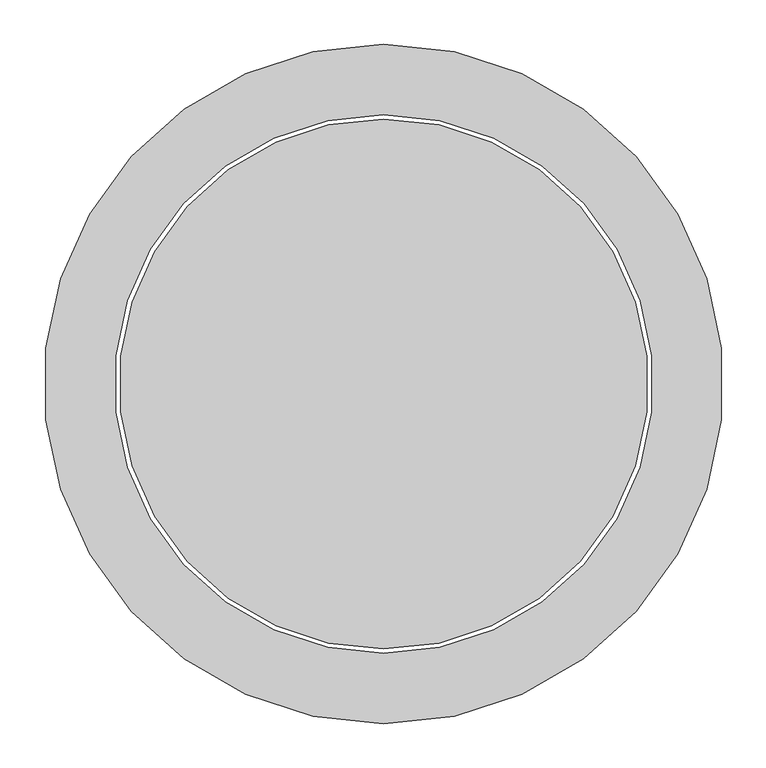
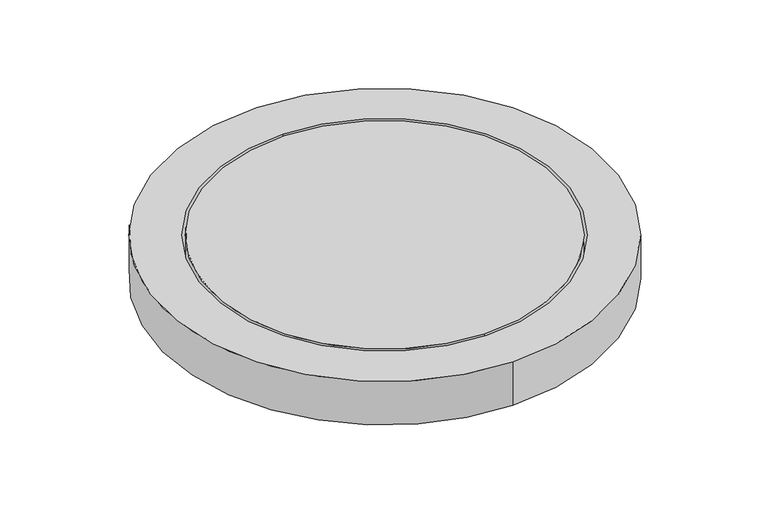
"""IFC4 building model written with IfcOpenShell, lengths in millimetres: valve geometry, Pipelife - Studnia PRO - Właz : Właz kl.C250 b./went.H-80mm,żeliwno-betonowy OW."""

from ifc_helpers import new_model, si_unit, point, origin, origin_with_axes, origin_2d, place, context, project, spatial, circle_curve, trimmed, segment, composite_curve, outline, extrude, source, transform, mapped, element, save


def valve_d2f8fbc1(model_context):
    return source(origin(), model_context, "Body", "SweptSolid", [
        extrude(outline(composite_curve([segment(trimmed(circle_curve(origin_2d(), 385.0), [point((0.0, 385.0))], [point((0.0, -385.0))], False, "CARTESIAN"), True, "CONTINUOUS"), segment(trimmed(circle_curve(origin_2d(), 385.0), [point((0.0, -385.0))], [point((0.0, 385.0))], False, "CARTESIAN"), True, "CONTINUOUS")], self_intersect=False), holes=[composite_curve([segment(trimmed(circle_curve(origin_2d(), 305.0), [point((0.0, 305.0))], [point((0.0, -305.0))], True, "CARTESIAN"), True, "CONTINUOUS"), segment(trimmed(circle_curve(origin_2d(), 305.0), [point((0.0, -305.0))], [point((0.0, 305.0))], True, "CARTESIAN"), True, "CONTINUOUS")], self_intersect=False)]), origin_with_axes(), (0.0, 0.0, 1.0), 80.0),
        extrude(outline(composite_curve([segment(trimmed(circle_curve(origin_2d(), 300.0), [point((0.0, 300.0))], [point((0.0, -300.0))], False, "CARTESIAN"), True, "CONTINUOUS"), segment(trimmed(circle_curve(origin_2d(), 300.0), [point((0.0, -300.0))], [point((0.0, 300.0))], False, "CARTESIAN"), True, "CONTINUOUS")], self_intersect=False)), origin_with_axes(), (0.0, 0.0, 1.0), 80.0),
    ])


if __name__ == "__main__":
    model = new_model("IFC4")
    model_context = context("Model", 3, world=origin())
    ifc_project = project(units=[si_unit("LENGTHUNIT", "METRE", prefix="MILLI")], contexts=[model_context])
    site = spatial("IfcSite", under=ifc_project)
    building = spatial("IfcBuilding", under=site)
    placement = place(None, origin())
    valve_shape = valve_d2f8fbc1(model_context)
    element("IfcValve", 1, ObjectType="Pipelife - Studnia PRO - Właz : Właz kl.C250 b./went.H-80mm,żeliwno-betonowy OW", at=placement, inside=building, context=model_context, shape_type="MappedRepresentation", body=[
        mapped(valve_shape, transform((0.0, 0.0, 0.0), x_axis=(1.0, 0.0, 0.0), y_axis=(0.0, 1.0, 0.0), z_axis=(0.0, 0.0, 1.0))),
    ])
    save(model, "model.ifc")
